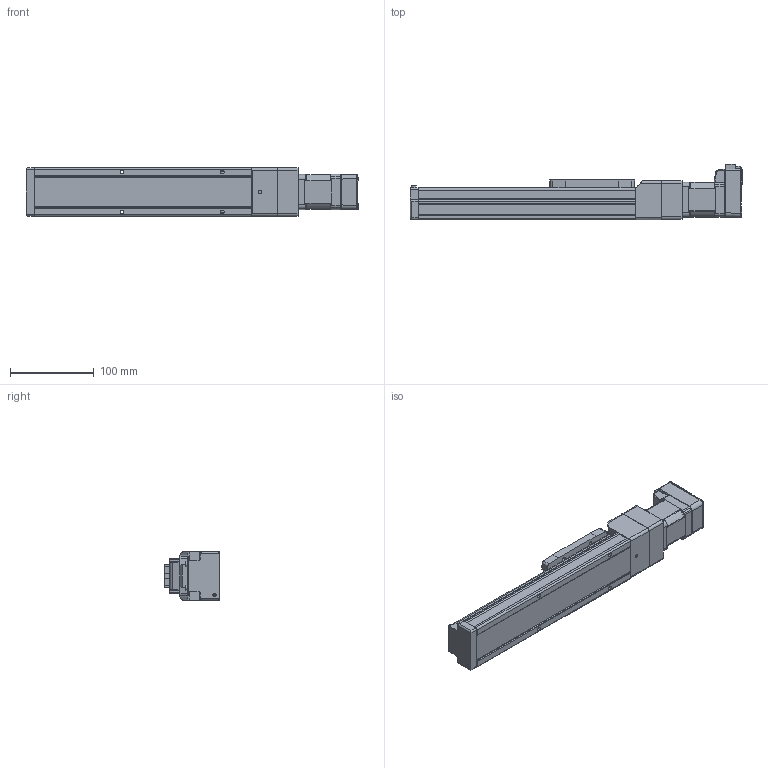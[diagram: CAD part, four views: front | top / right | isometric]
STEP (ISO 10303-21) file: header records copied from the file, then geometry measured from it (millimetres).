
FILE_DESCRIPTION (( 'STEP AP214' ), '1' );
FILE_NAME ('LEFS3(+)-25NM1Œû-150-17L.STEP', '2023-05-31T02:45:28', ( '' ), ( '' ), 'SwSTEP 2.0', 'SolidWorks 2019', '' );
FILE_SCHEMA (( 'AUTOMOTIVE_DESIGN' ));
Length unit declared in the file: millimetre
Products named in the file (5): LEFS3(+)-25NM1_TABLE; LEFS3(+)-25NM1仩_BODY_150; CM3(+)-17L50A; LEFS3(+)-25NM1_MOTOR Flange; LEFS3(+)-25NM1口-150-17L
Assembly tree (4 placements, depth 2):
  LEFS3(+)-25NM1口-150-17L
    LEFS3(+)-25NM1仩_BODY_150
    LEFS3(+)-25NM1_TABLE
    LEFS3(+)-25NM1_MOTOR Flange
    CM3(+)-17L50A
Bounding box: 397.3 x 66.75 x 58 mm (x, y, z)
Volume: 826015.6 mm3; surface area: 118302.4 mm2
Topology: 5 solids, 5 shells, 987 faces, 2542 edges, 1600 vertices
Faces by surface type: plane 513, cylinder 302, cone 83, torus 39, bspline 29, sphere 21
Entity records: 40084 total; most frequent: CARTESIAN_POINT 7320, ORIENTED_EDGE 5022, DIRECTION 4826, EDGE_CURVE 2511, AXIS2_PLACEMENT_3D 1618, VERTEX_POINT 1600, LINE 1590, VECTOR 1590
